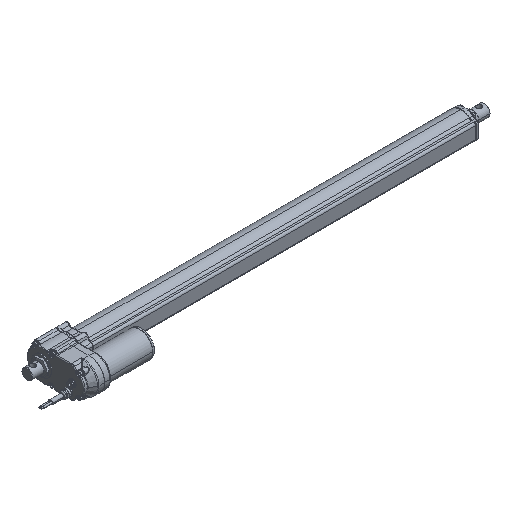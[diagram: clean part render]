
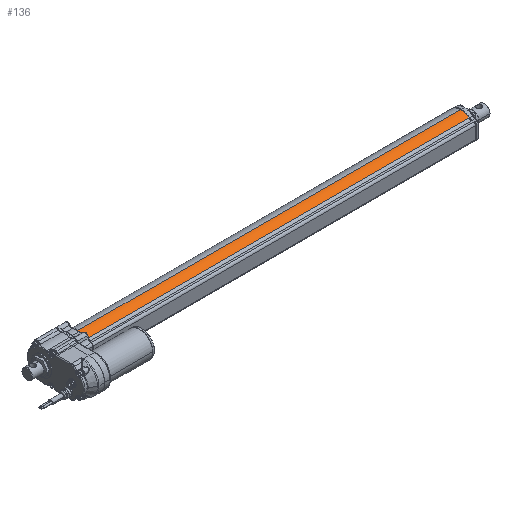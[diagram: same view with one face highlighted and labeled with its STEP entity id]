
A CAD part, isometric view. The second image highlights one B-rep face of the part: STEP entity #136.
In plain terms, the highlighted cylindrical face has radius 30.5 mm (diameter 61 mm), a partial arc.
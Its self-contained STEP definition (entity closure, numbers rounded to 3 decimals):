
#136=ADVANCED_FACE('',(#1138),#1139,.T.);
#1138=FACE_OUTER_BOUND('',#3063,.T.);
#1139=CYLINDRICAL_SURFACE('',#3064,30.5);
#3063=EDGE_LOOP('',(#8479,#8480,#8481,#8482));
#3064=AXIS2_PLACEMENT_3D('',#8483,#8484,#8485);
#8479=ORIENTED_EDGE('',*,*,#15518,.F.);
#8480=ORIENTED_EDGE('',*,*,#15519,.F.);
#8481=ORIENTED_EDGE('',*,*,#15520,.T.);
#8482=ORIENTED_EDGE('',*,*,#15521,.F.);
#8483=CARTESIAN_POINT('',(94.3,0.,0.));
#8484=DIRECTION('',(1.0,0.,0.));
#8485=DIRECTION('',(0.,0.,1.0));
#15518=EDGE_CURVE('',#18125,#18126,#18127,.T.);
#15519=EDGE_CURVE('',#18128,#18125,#18129,.T.);
#15520=EDGE_CURVE('',#18128,#18130,#18131,.T.);
#15521=EDGE_CURVE('',#18126,#18130,#18132,.T.);
#18125=VERTEX_POINT('',#23105);
#18126=VERTEX_POINT('',#23106);
#18127=LINE('',#23107,#23108);
#18128=VERTEX_POINT('',#23109);
#18129=CIRCLE('',#23110,30.5);
#18130=VERTEX_POINT('',#23111);
#18131=LINE('',#23112,#23113);
#18132=CIRCLE('',#23114,30.5);
#23105=CARTESIAN_POINT('',(94.3,0.,30.5));
#23106=CARTESIAN_POINT('',(1039.5,0.,30.5));
#23107=CARTESIAN_POINT('',(94.3,0.,30.5));
#23108=VECTOR('',#38996,1.0);
#23109=CARTESIAN_POINT('',(94.3,-20.49,22.593));
#23110=AXIS2_PLACEMENT_3D('',#38997,#38998,#38999);
#23111=CARTESIAN_POINT('',(1039.5,-20.49,22.593));
#23112=CARTESIAN_POINT('',(94.3,-20.49,22.593));
#23113=VECTOR('',#39000,1.0);
#23114=AXIS2_PLACEMENT_3D('',#39001,#39002,#39003);
#38996=DIRECTION('',(1.0,0.,0.));
#38997=CARTESIAN_POINT('',(94.3,0.,0.));
#38998=DIRECTION('',(-1.0,0.,0.));
#38999=DIRECTION('',(0.,0.,1.0));
#39000=DIRECTION('',(1.0,0.,0.));
#39001=CARTESIAN_POINT('',(1039.5,0.,0.));
#39002=DIRECTION('',(1.0,0.,0.));
#39003=DIRECTION('',(0.,0.,1.0));
